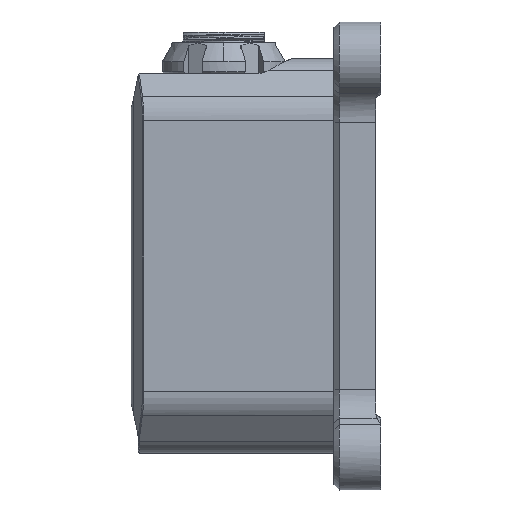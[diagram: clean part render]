
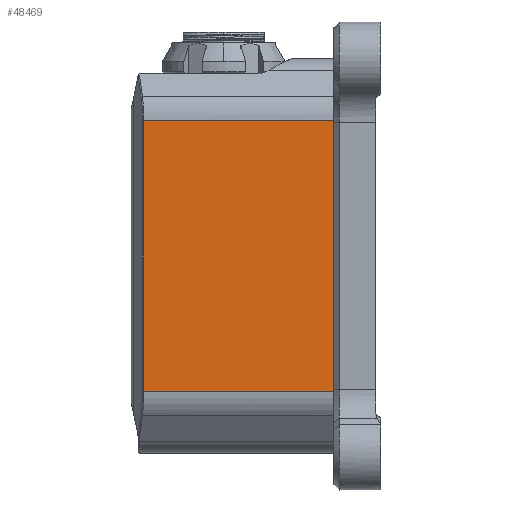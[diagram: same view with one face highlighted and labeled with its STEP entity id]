
A CAD part, left-side view. The second image highlights one B-rep face of the part: STEP entity #48469.
In plain terms, the highlighted planar face has unit normal (-1, 0, 0).
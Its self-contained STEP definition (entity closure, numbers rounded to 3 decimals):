
#1032 = CARTESIAN_POINT ( 'NONE',  ( -19., 0., 13. ) ) ;
#2048 = EDGE_CURVE ( 'NONE', #11682, #52161, #9912, .T. ) ;
#2084 = CARTESIAN_POINT ( 'NONE',  ( -19., 0., -12.851 ) ) ;
#6709 = VERTEX_POINT ( 'NONE', #69559 ) ;
#7832 = VERTEX_POINT ( 'NONE', #31097 ) ;
#8009 = CARTESIAN_POINT ( 'NONE',  ( -19., 0., 13. ) ) ;
#9912 = LINE ( 'NONE', #53199, #51266 ) ;
#11361 = CARTESIAN_POINT ( 'NONE',  ( -19., 19.5, 13. ) ) ;
#11682 = VERTEX_POINT ( 'NONE', #1032 ) ;
#13146 = DIRECTION ( 'NONE',  ( 1., 0., 0. ) ) ;
#13457 = ORIENTED_EDGE ( 'NONE', *, *, #45129, .F. ) ;
#14341 = EDGE_CURVE ( 'NONE', #30377, #52161, #28373, .T. ) ;
#20641 = CARTESIAN_POINT ( 'NONE',  ( -19., 0., 12.851 ) ) ;
#20898 = DIRECTION ( 'NONE',  ( 0., 0., -1. ) ) ;
#23384 = VERTEX_POINT ( 'NONE', #46827 ) ;
#27529 = EDGE_CURVE ( 'NONE', #23384, #11682, #57301, .T. ) ;
#28373 = LINE ( 'NONE', #36742, #57025 ) ;
#30377 = VERTEX_POINT ( 'NONE', #2084 ) ;
#30425 = VECTOR ( 'NONE', #32207, 1000. ) ;
#31097 = CARTESIAN_POINT ( 'NONE',  ( -19., 18.287, -13. ) ) ;
#32207 = DIRECTION ( 'NONE',  ( 0., 1., 0. ) ) ;
#32873 = EDGE_CURVE ( 'NONE', #7832, #23384, #66077, .T. ) ;
#33604 = ORIENTED_EDGE ( 'NONE', *, *, #2048, .F. ) ;
#36742 = CARTESIAN_POINT ( 'NONE',  ( -19., 0., 12.851 ) ) ;
#37358 = ORIENTED_EDGE ( 'NONE', *, *, #27529, .F. ) ;
#40891 = ORIENTED_EDGE ( 'NONE', *, *, #32873, .F. ) ;
#41947 = DIRECTION ( 'NONE',  ( 0., 0., 1. ) ) ;
#42960 = AXIS2_PLACEMENT_3D ( 'NONE', #45487, #13146, #50907 ) ;
#43725 = DIRECTION ( 'NONE',  ( 0., -1., 0. ) ) ;
#44765 = LINE ( 'NONE', #58834, #30425 ) ;
#45129 = EDGE_CURVE ( 'NONE', #6709, #7832, #44765, .T. ) ;
#45487 = CARTESIAN_POINT ( 'NONE',  ( -19., 19.5, 13. ) ) ;
#45751 = LINE ( 'NONE', #8009, #60119 ) ;
#46827 = CARTESIAN_POINT ( 'NONE',  ( -19., 18.287, 13. ) ) ;
#48469 = ADVANCED_FACE ( 'NONE', ( #68876 ), #55862, .F. ) ;
#49767 = EDGE_CURVE ( 'NONE', #30377, #6709, #45751, .T. ) ;
#50074 = VECTOR ( 'NONE', #63919, 1000. ) ;
#50907 = DIRECTION ( 'NONE',  ( 0., 0., -1. ) ) ;
#51266 = VECTOR ( 'NONE', #20898, 1000. ) ;
#52161 = VERTEX_POINT ( 'NONE', #20641 ) ;
#53199 = CARTESIAN_POINT ( 'NONE',  ( -19., 0., 12.851 ) ) ;
#53289 = CARTESIAN_POINT ( 'NONE',  ( -19., 18.287, 13. ) ) ;
#55606 = VECTOR ( 'NONE', #43725, 1000. ) ;
#55862 = PLANE ( 'NONE',  #42960 ) ;
#56547 = ORIENTED_EDGE ( 'NONE', *, *, #49767, .F. ) ;
#57025 = VECTOR ( 'NONE', #41947, 1000. ) ;
#57301 = LINE ( 'NONE', #11361, #55606 ) ;
#58288 = DIRECTION ( 'NONE',  ( 0., 0., -1. ) ) ;
#58834 = CARTESIAN_POINT ( 'NONE',  ( -19., 19.5, -13. ) ) ;
#60119 = VECTOR ( 'NONE', #58288, 1000. ) ;
#62730 = ORIENTED_EDGE ( 'NONE', *, *, #14341, .T. ) ;
#63919 = DIRECTION ( 'NONE',  ( 0., 0., 1. ) ) ;
#65623 = EDGE_LOOP ( 'NONE', ( #40891, #13457, #56547, #62730, #33604, #37358 ) ) ;
#66077 = LINE ( 'NONE', #53289, #50074 ) ;
#68876 = FACE_OUTER_BOUND ( 'NONE', #65623, .T. ) ;
#69559 = CARTESIAN_POINT ( 'NONE',  ( -19., 0., -13. ) ) ;
